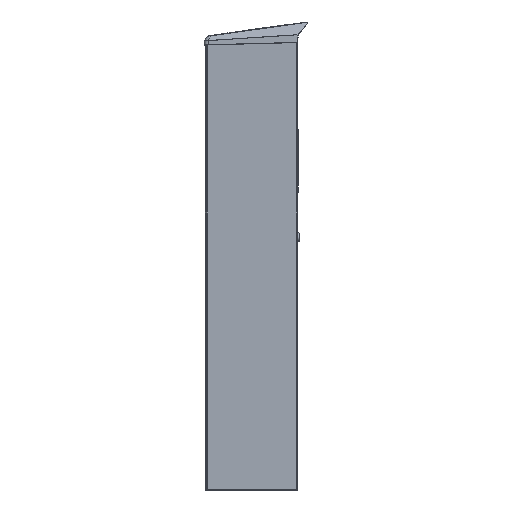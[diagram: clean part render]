
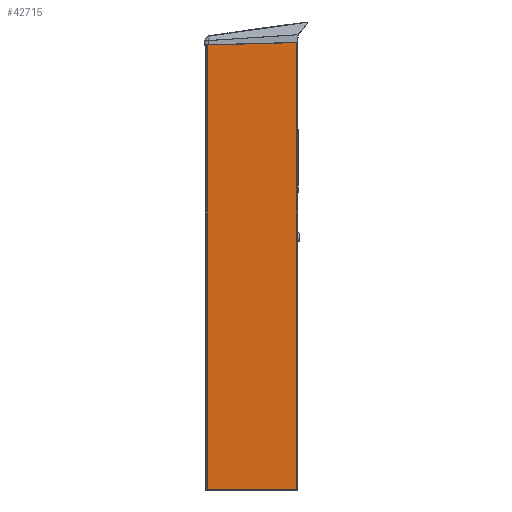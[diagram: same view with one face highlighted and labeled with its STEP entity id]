
A CAD part, left-side view. The second image highlights one B-rep face of the part: STEP entity #42715.
In plain terms, the highlighted planar face has unit normal (-1, 0.026, 0).
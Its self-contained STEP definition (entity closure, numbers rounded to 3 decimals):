
#9229=ORIENTED_EDGE('',*,*,#18113,.F.);
#9230=ORIENTED_EDGE('',*,*,#18276,.T.);
#9231=ORIENTED_EDGE('',*,*,#18467,.T.);
#9232=ORIENTED_EDGE('',*,*,#18418,.T.);
#18113=EDGE_CURVE('',#25419,#25420,#31933,.T.);
#18276=EDGE_CURVE('',#25419,#25555,#32030,.T.);
#18418=EDGE_CURVE('',#25637,#25420,#32139,.T.);
#18467=EDGE_CURVE('',#25555,#25637,#32170,.T.);
#25419=VERTEX_POINT('',#69788);
#25420=VERTEX_POINT('',#69790);
#25555=VERTEX_POINT('',#70118);
#25637=VERTEX_POINT('',#70406);
#31933=LINE('',#69789,#34759);
#32030=LINE('',#70117,#34856);
#32139=LINE('',#70405,#34965);
#32170=LINE('',#70477,#34996);
#34759=VECTOR('',#57429,1000.);
#34856=VECTOR('',#57708,1000.);
#34965=VECTOR('',#58001,1000.);
#34996=VECTOR('',#58086,1000.);
#37688=EDGE_LOOP('',(#9229,#9230,#9231,#9232));
#39923=FACE_BOUND('',#37688,.T.);
#42072=PLANE('',#52786);
#42715=ADVANCED_FACE('',(#39923),#42072,.F.);
#52786=AXIS2_PLACEMENT_3D('',#70546,#58186,#58187);
#57429=DIRECTION('',(-0.026,-1.,0.));
#57708=DIRECTION('',(0.,0.,-1.));
#58001=DIRECTION('',(0.,0.,1.));
#58086=DIRECTION('',(-0.026,-1.,0.));
#58186=DIRECTION('',(1.,-0.026,0.));
#58187=DIRECTION('',(0.,0.,-1.));
#69788=CARTESIAN_POINT('',(-138.815,222.163,1154.));
#69789=CARTESIAN_POINT('',(-138.792,223.064,1154.));
#69790=CARTESIAN_POINT('',(-144.837,-7.781,1154.));
#70117=CARTESIAN_POINT('',(-138.815,222.163,1302.15));
#70118=CARTESIAN_POINT('',(-138.815,222.163,2.));
#70405=CARTESIAN_POINT('',(-144.837,-7.781,1302.15));
#70406=CARTESIAN_POINT('',(-144.837,-7.781,2.));
#70477=CARTESIAN_POINT('',(-138.676,227.487,2.));
#70546=CARTESIAN_POINT('',(-138.792,223.064,1302.15));
